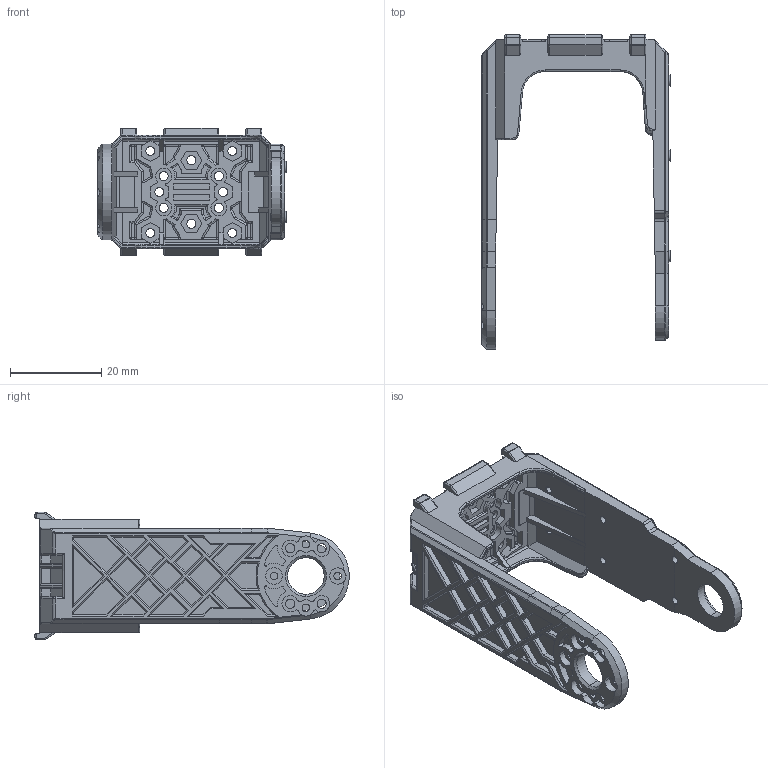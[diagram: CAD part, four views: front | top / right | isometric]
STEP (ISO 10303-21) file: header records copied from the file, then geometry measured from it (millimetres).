
FILE_DESCRIPTION((''),'2;1');
FILE_NAME('L_U_BRACKET','2011-03-07T',('Administrator'),(''),'PRO/ENGINEER BY PARAMETRIC TECHNOLOGY CORPORATION, 2010330','PRO/ENGINEER BY PARAMETRIC TECHNOLOGY CORPORATION, 2010330','');
FILE_SCHEMA(('CONFIG_CONTROL_DESIGN'));
Length unit declared in the file: millimetre
Products named in the file (1): L_U_BRACKET
Bounding box: 41.3 x 68.97 x 28 mm (x, y, z)
Volume: 9119.5 mm3; surface area: 11461.9 mm2
Topology: 1 solids, 1 shells, 1405 faces, 3531 edges, 2176 vertices
Faces by surface type: plane 814, cylinder 436, bspline 42, torus 42, cone 37, sphere 30, extrusion 4
Entity records: 43177 total; most frequent: CARTESIAN_POINT 9837, ORIENTED_EDGE 7050, DIRECTION 6654, EDGE_CURVE 3525, VECTOR 2438, LINE 2434, VERTEX_POINT 2176, AXIS2_PLACEMENT_3D 2108
